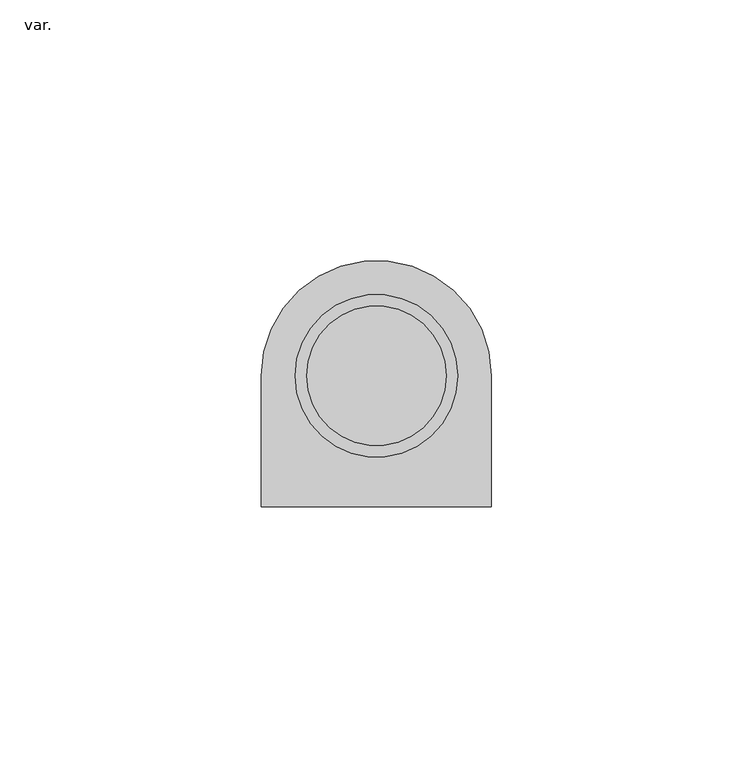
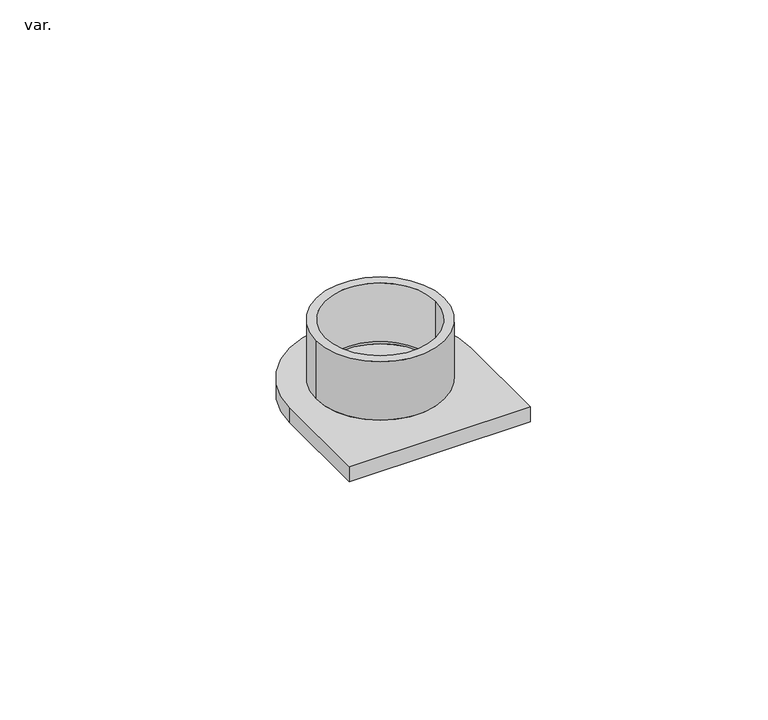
"""IFC4 building model written with IfcOpenShell, lengths in millimetres: pipe fitting geometry, AmancoWavin_ConexõesdoConduite_LinhaEletricaeZNãoUsarElectroAmancoAdaptador : var.."""

from ifc_helpers import new_model, si_unit, frame, origin, origin_with_axes, place, context, project, spatial, polyline, circle_curve, source, transform, mapped, element, save
from ifc_brep_helpers import plane_surface, cylinder_surface, revolved_surface, advanced_brep


def var_2e84a725(model_context):
    return source(origin(), model_context, "Body", "AdvancedBrep", [
        advanced_brep(
        [(-22.0, 0.0, 3.85), (-22.0, -25.0, 3.85), (22.0, -25.0, 3.85), (22.0, 0.0, 3.85), (15.55, 0.0, 3.85), (-15.55, 0.0, 3.85), (-22.0, 0.0, 0.0), (22.0, 0.0, 0.0), (22.0, -25.0, 0.0), (-22.0, -25.0, 0.0), (-15.55, 0.0, 18.85), (15.55, 0.0, 18.85), (-13.35, 0.0, 18.85), (13.35, 0.0, 18.85), (-13.35, 0.0, 3.85), (13.35, 0.0, 3.85), (-13.35, 0.0, 3.25), (13.35, 0.0, 3.25)],
        [
            (0, 1),
            (1, 2),
            (2, 3),
            (3, 0, circle_curve(frame((0.0, 0.0, 3.85), z_axis=(0.0, 0.0, 1.0), x_axis=(1.0, 0.0, 0.0)), 22.0)),
            (4, 5, circle_curve(frame((0.0, 0.0, 3.85), z_axis=(0.0, 0.0, -1.0), x_axis=(1.0, 0.0, 0.0)), 15.55)),
            (5, 4, circle_curve(frame((0.0, 0.0, 3.85), z_axis=(0.0, 0.0, -1.0), x_axis=(1.0, 0.0, 0.0)), 15.55)),
            (6, 7, circle_curve(frame((0.0, 0.0, 0.0), z_axis=(0.0, 0.0, -1.0), x_axis=(1.0, 0.0, 0.0)), 22.0)),
            (7, 8),
            (8, 9),
            (9, 6),
            (0, 6),
            (9, 1),
            (8, 2),
            (7, 3),
            (10, 11, circle_curve(frame((0.0, 0.0, 18.85), z_axis=(0.0, 0.0, 1.0), x_axis=(1.0, 0.0, 0.0)), 15.55)),
            (11, 10, circle_curve(frame((0.0, 0.0, 18.85), z_axis=(0.0, 0.0, 1.0), x_axis=(1.0, 0.0, 0.0)), 15.55)),
            (12, 13, circle_curve(frame((0.0, 0.0, 18.85), z_axis=(0.0, 0.0, -1.0), x_axis=(1.0, 0.0, 0.0)), 13.35)),
            (13, 12, circle_curve(frame((0.0, 0.0, 18.85), z_axis=(0.0, 0.0, -1.0), x_axis=(1.0, 0.0, 0.0)), 13.35)),
            (10, 5),
            (4, 11),
            (12, 14),
            (14, 15, circle_curve(frame((0.0, 0.0, 3.85), z_axis=(0.0, 0.0, -1.0), x_axis=(1.0, 0.0, 0.0)), 13.35)),
            (15, 13),
            (15, 14, circle_curve(frame((0.0, 0.0, 3.85), z_axis=(0.0, 0.0, -1.0), x_axis=(1.0, 0.0, 0.0)), 13.35)),
            (16, 17, circle_curve(frame((0.0, 0.0, 3.25), z_axis=(0.0, 0.0, 1.0), x_axis=(1.0, 0.0, 0.0)), 13.35)),
            (17, 16, circle_curve(frame((0.0, 0.0, 3.25), z_axis=(0.0, 0.0, 1.0), x_axis=(1.0, 0.0, 0.0)), 13.35)),
            (16, 14),
            (15, 17),
        ],
        [
            plane_surface(frame((-22.0, -25.0, 3.85), z_axis=(0.0, 0.0, 1.0), x_axis=(0.0, -1.0, 0.0))),
            plane_surface(frame((-22.0, -25.0, 0.0), z_axis=(0.0, 0.0, -1.0), x_axis=(0.0, 1.0, 0.0))),
            plane_surface(frame((-22.0, 0.0, 3.85), z_axis=(-1.0, 0.0, 0.0), x_axis=(0.0, 0.0, -1.0))),
            plane_surface(frame((-22.0, -25.0, 3.85), z_axis=(0.0, -1.0, 0.0), x_axis=(0.0, 0.0, -1.0))),
            plane_surface(frame((22.0, -25.0, 3.85), z_axis=(1.0, 0.0, 0.0), x_axis=(0.0, 0.0, -1.0))),
            cylinder_surface(origin_with_axes(), 22.0),
            plane_surface(frame((15.55, 0.0, 18.85), z_axis=(0.0, 0.0, 1.0), x_axis=(0.0, 1.0, 0.0))),
            cylinder_surface(frame((0.0, 0.0, 3.25), z_axis=(0.0, 0.0, 1.0), x_axis=(1.0, 0.0, 0.0)), 15.55),
            revolved_surface(polyline([(13.35, 0.0, 3.85), (13.35, 0.0, 18.85)]), (0.0, 0.0, 0.0), (0.0, 0.0, -1.0)),
            plane_surface(frame((13.35, 0.0, 3.25), z_axis=(0.0, 0.0, 1.0), x_axis=(0.0, -1.0, 0.0))),
            revolved_surface(polyline([(13.35, 0.0, 3.85), (13.35, 0.0, 3.25)]), (0.0, 0.0, 3.25), (0.0, 0.0, 1.0)),
        ],
        [
            (0, [[1, 2, 3, 4], [5, 6]]),
            (1, [[7, 8, 9, 10]]),
            (2, [[-1, 11, -10, 12]]),
            (3, [[-2, -12, -9, 13]]),
            (4, [[-3, -13, -8, 14]]),
            (5, [[-4, -14, -7, -11]]),
            (6, [[15, 16], [17, 18]]),
            (7, [[-15, 19, -5, 20]]),
            (7, [[-16, -20, -6, -19]]),
            (8, [[-17, 21, 22, 23]]),
            (8, [[-18, -23, 24, -21]]),
            (9, [[25, 26]]),
            (10, [[-25, 27, -24, 28]]),
            (10, [[-26, -28, -22, -27]]),
        ],
    ),
    ])


if __name__ == "__main__":
    model = new_model("IFC4")
    model_context = context("Model", 3, world=origin())
    ifc_project = project(units=[si_unit("LENGTHUNIT", "METRE", prefix="MILLI")], contexts=[model_context])
    site = spatial("IfcSite", under=ifc_project)
    building = spatial("IfcBuilding", under=site)
    placement = place(None, origin())
    var_shape = var_2e84a725(model_context)
    element("IfcPipeFitting", 1, ObjectType="AmancoWavin_ConexõesdoConduite_LinhaEletricaeZNãoUsarElectroAmancoAdaptador : var.", at=placement, inside=building, context=model_context, shape_type="MappedRepresentation", body=[
        mapped(var_shape, transform((0.0, 0.0, 0.0), x_axis=(1.0, 0.0, 0.0), y_axis=(0.0, 1.0, 0.0), z_axis=(0.0, 0.0, 1.0))),
    ])
    save(model, "model.ifc")
